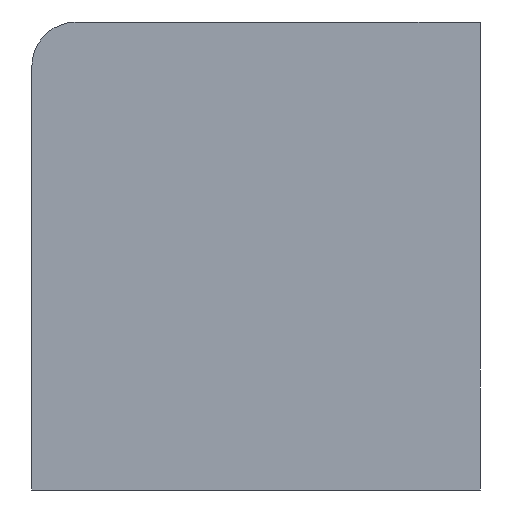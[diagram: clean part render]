
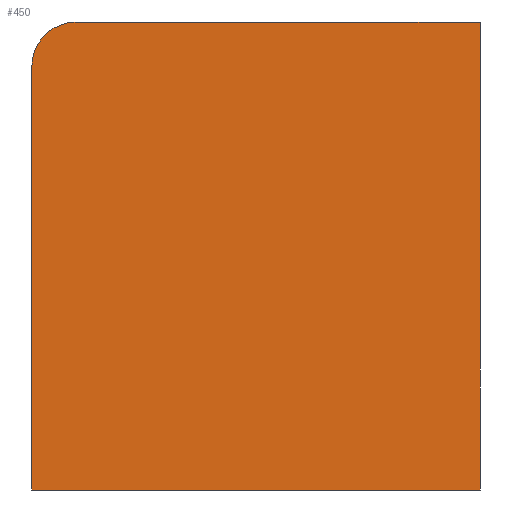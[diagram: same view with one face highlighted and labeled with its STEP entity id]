
A CAD part, left-side view. The second image highlights one B-rep face of the part: STEP entity #450.
In plain terms, the highlighted planar face has unit normal (-1, 0, 0).
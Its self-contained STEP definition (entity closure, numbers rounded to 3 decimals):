
#233=CARTESIAN_POINT('Vertex',(0.,0.,95.)) ;
#236=CARTESIAN_POINT('Line Origine',(0.,0.,47.5)) ;
#240=CARTESIAN_POINT('Vertex',(0.,0.,0.)) ;
#329=CARTESIAN_POINT('Vertex',(0.,91.,0.)) ;
#332=CARTESIAN_POINT('Line Origine',(0.,91.,43.)) ;
#336=CARTESIAN_POINT('Vertex',(0.,91.,86.)) ;
#396=CARTESIAN_POINT('Line Origine',(0.,45.5,0.)) ;
#414=CARTESIAN_POINT('Axis2P3D Location',(0.,82.,86.)) ;
#418=CARTESIAN_POINT('Vertex',(0.,82.,95.)) ;
#433=CARTESIAN_POINT('Axis2P3D Location',(0.,91.,0.)) ;
#438=CARTESIAN_POINT('Line Origine',(0.,41.,95.)) ;
#237=DIRECTION('Vector Direction',(0.,0.,1.)) ;
#333=DIRECTION('Vector Direction',(0.,0.,1.)) ;
#397=DIRECTION('Vector Direction',(0.,-1.,0.)) ;
#415=DIRECTION('Axis2P3D Direction',(-1.,0.,0.)) ;
#434=DIRECTION('Axis2P3D Direction',(-1.,0.,0.)) ;
#435=DIRECTION('Axis2P3D XDirection',(0.,-1.,0.)) ;
#439=DIRECTION('Vector Direction',(0.,1.,0.)) ;
#416=AXIS2_PLACEMENT_3D('Circle Axis2P3D',#414,#415,$) ;
#436=AXIS2_PLACEMENT_3D('Plane Axis2P3D',#433,#434,#435) ;
#444=ORIENTED_EDGE('',*,*,#242,.T.) ;
#445=ORIENTED_EDGE('',*,*,#442,.T.) ;
#446=ORIENTED_EDGE('',*,*,#420,.T.) ;
#447=ORIENTED_EDGE('',*,*,#338,.F.) ;
#448=ORIENTED_EDGE('',*,*,#400,.T.) ;
#238=VECTOR('Line Direction',#237,1.) ;
#334=VECTOR('Line Direction',#333,1.) ;
#398=VECTOR('Line Direction',#397,1.) ;
#440=VECTOR('Line Direction',#439,1.) ;
#450=ADVANCED_FACE('PartBody',(#449),#437,.T.) ;
#417=CIRCLE('generated circle',#416,9.) ;
#242=EDGE_CURVE('',#241,#234,#239,.T.) ;
#338=EDGE_CURVE('',#330,#337,#335,.T.) ;
#400=EDGE_CURVE('',#330,#241,#399,.T.) ;
#420=EDGE_CURVE('',#419,#337,#417,.T.) ;
#442=EDGE_CURVE('',#234,#419,#441,.T.) ;
#443=EDGE_LOOP('',(#444,#445,#446,#447,#448)) ;
#449=FACE_OUTER_BOUND('',#443,.T.) ;
#239=LINE('Line',#236,#238) ;
#335=LINE('Line',#332,#334) ;
#399=LINE('Line',#396,#398) ;
#441=LINE('Line',#438,#440) ;
#437=PLANE('',#436) ;
#234=VERTEX_POINT('',#233) ;
#241=VERTEX_POINT('',#240) ;
#330=VERTEX_POINT('',#329) ;
#337=VERTEX_POINT('',#336) ;
#419=VERTEX_POINT('',#418) ;
